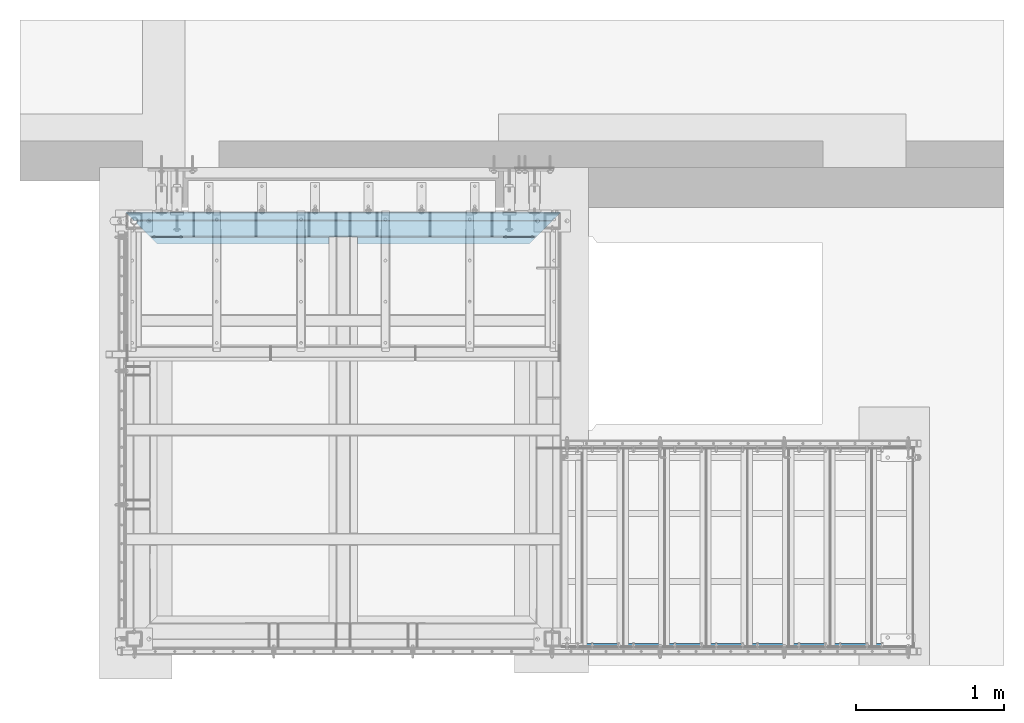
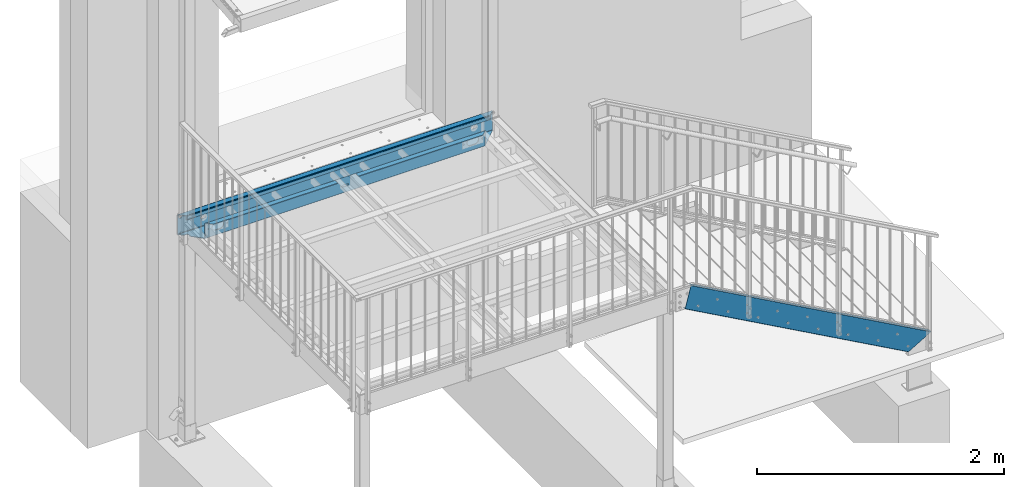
# One storey, part 12 of 116: 1 beam, 1 member, 38 openings.
"""IFC2X3 building model written with IfcOpenShell, lengths in millimetres."""

from ifc_helpers import new_model, entity, si_unit, converted_unit, point, frame, frame_2d, origin, origin_with_axes, origin_2d_with_axis, place, context, project, spatial, polyline, circle_curve, line_curve, trimmed, segment, composite_curve, circle, outline, extrude, clip, halfspace, material, element, save


model = new_model("IFC2X3")

# Units and contexts
model_context = context("Model", 3, precision=1e-09, world=origin_with_axes())
ifc_project = project(units=[si_unit("LENGTHUNIT", "METRE", prefix="MILLI"), si_unit("AREAUNIT", "SQUARE_METRE"), si_unit("VOLUMEUNIT", "CUBIC_METRE"), converted_unit("PLANEANGLEUNIT", "DEGREE", entity("IfcPlaneAngleMeasure", 0.01745329), si_unit("PLANEANGLEUNIT", "RADIAN"), dimensions=[0, 0, 0, 0, 0, 0, 0])], contexts=[model_context])

# Site, building, storey
site_placement = place(None, origin_with_axes())
site = spatial("IfcSite", under=ifc_project, at=site_placement, Name="Site", CompositionType="ELEMENT")
building_placement = place(site_placement, origin_with_axes())
building = spatial("IfcBuilding", under=site, at=building_placement, Name="Struktur 1", CompositionType="ELEMENT")
storey_placement = place(building_placement, origin_with_axes())
storey = spatial("IfcBuildingStorey", under=building, at=storey_placement, Name="Default Storey", CompositionType="ELEMENT", Elevation=0.0)

# Member, openings
ifc_material_1 = material(Name="S235JR")
member_placement = place(None, frame((60785.926054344, 9087.358883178, -1459.553447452), z_axis=(-0.874893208, 0.0, 0.484315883), x_axis=(0.0, 1.0, 0.0)))
member = element("IfcMember", 1, at=member_placement, inside=storey, material=ifc_material_1, Name="-", ObjectType="-", context=model_context, shape_type="Clipping", body=[
    clip(clip(extrude(outline(composite_curve([segment(trimmed(line_curve((15.0, 108.5), (-1.0, 0.0), 25.0), [point((15.0, 108.5))], [point((-10.0, 108.5))], True, "CARTESIAN"), True, "CONTINUOUS"), segment(trimmed(circle_curve(frame_2d((-9.999999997, 103.499999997), x_axis=(1.0, 0.0)), 5.000000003), [point((-10.0, 108.5))], [point((-15.0, 103.5))], True, "CARTESIAN"), True, "CONTINUOUS"), segment(trimmed(line_curve((-15.0, 103.5), (0.0, -1.0), 207.0), [point((-15.0, 103.5))], [point((-15.0, -103.5))], True, "CARTESIAN"), True, "CONTINUOUS"), segment(trimmed(circle_curve(frame_2d((-9.999999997, -103.499999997), x_axis=(1.0, 0.0)), 5.000000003), [point((-15.0, -103.5))], [point((-10.0, -108.5))], True, "CARTESIAN"), True, "CONTINUOUS"), segment(trimmed(line_curve((-10.0, -108.5), (1.0, 0.0), 25.0), [point((-10.0, -108.5))], [point((15.0, -108.5))], True, "CARTESIAN"), True, "CONTINUOUS"), segment(trimmed(line_curve((15.0, -108.5), (0.0, 1.0), 4.0), [point((15.0, -108.5))], [point((15.0, -104.5))], True, "CARTESIAN"), True, "CONTINUOUS"), segment(trimmed(line_curve((15.0, -104.5), (-1.0, 0.0), 25.0), [point((15.0, -104.5))], [point((-10.0, -104.5))], True, "CARTESIAN"), True, "CONTINUOUS"), segment(trimmed(circle_curve(frame_2d((-9.999999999, -103.499999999), x_axis=(-1.0, 0.0)), 1.000000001), [point((-10.0, -104.5))], [point((-11.0, -103.5))], False, "CARTESIAN"), True, "CONTINUOUS"), segment(trimmed(line_curve((-11.0, -103.5), (0.0, 1.0), 207.0), [point((-11.0, -103.5))], [point((-11.0, 103.5))], True, "CARTESIAN"), True, "CONTINUOUS"), segment(trimmed(circle_curve(frame_2d((-9.999999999, 103.499999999), x_axis=(-1.0, 0.0)), 1.000000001), [point((-11.0, 103.5))], [point((-10.0, 104.5))], False, "CARTESIAN"), True, "CONTINUOUS"), segment(trimmed(line_curve((-10.0, 104.5), (1.0, 0.0), 25.0), [point((-10.0, 104.5))], [point((15.0, 104.5))], True, "CARTESIAN"), True, "CONTINUOUS"), segment(trimmed(line_curve((15.0, 104.5), (0.0, 1.0), 4.0), [point((15.0, 104.5))], [point((15.0, 108.5))], True, "CARTESIAN"), True, "CONTINUOUS")], self_intersect=False)), origin(), (0.0, 0.0, 1.0), 3042.828293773), halfspace(frame((-9087.358883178, 14027.067776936, -833.812223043), z_axis=(0.0, -0.250106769, -0.968218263), x_axis=(1.0, 0.0, 0.0)), True)), halfspace(frame((-9087.358883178, 44335.592086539, 26449.557933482), z_axis=(0.0, -0.507781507, 0.861485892), x_axis=(-1.0, 0.0, 0.0)), True)),
])
opening_1_placement = place(member_placement, frame((-10.5, -31.430671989, 576.183800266), z_axis=(-1.0, 0.0, 0.0), x_axis=(0.0, -0.484315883, -0.874893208)))
element("IfcOpeningElement", 2, at=opening_1_placement, cuts=member, ObjectType="Opening", context=model_context, shape_type="SweptSolid", body=[
    extrude(circle(Radius=7.001, at=origin_2d_with_axis()), origin(), (0.0, 0.0, 1.0), 5.0),
])
opening_2_placement = place(member_placement, frame((-10.5, 55.746186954, 733.664577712), z_axis=(-1.0, 0.0, 0.0), x_axis=(0.0, -0.484315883, -0.874893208)))
element("IfcOpeningElement", 3, at=opening_2_placement, cuts=member, ObjectType="Opening", context=model_context, shape_type="SweptSolid", body=[
    extrude(circle(Radius=7.001, at=origin_2d_with_axis()), origin(), (0.0, 0.0, 1.0), 5.0),
])
opening_3_placement = place(member_placement, frame((-10.5, -31.430671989, 896.222860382), z_axis=(-1.0, 0.0, 0.0), x_axis=(0.0, -0.484315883, -0.874893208)))
element("IfcOpeningElement", 4, at=opening_3_placement, cuts=member, ObjectType="Opening", context=model_context, shape_type="SweptSolid", body=[
    extrude(circle(Radius=7.001, at=origin_2d_with_axis()), origin(), (0.0, 0.0, 1.0), 5.0),
])
opening_4_placement = place(member_placement, frame((-10.5, 55.746186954, 1373.742697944), z_axis=(-1.0, 0.0, 0.0), x_axis=(0.0, -0.484315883, -0.874893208)))
element("IfcOpeningElement", 5, at=opening_4_placement, cuts=member, ObjectType="Opening", context=model_context, shape_type="SweptSolid", body=[
    extrude(circle(Radius=7.001, at=origin_2d_with_axis()), origin(), (0.0, 0.0, 1.0), 5.0),
])
opening_5_placement = place(member_placement, frame((-10.5, -31.430671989, 2496.418160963), z_axis=(-1.0, 0.0, 0.0), x_axis=(0.0, -0.484315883, -0.874893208)))
element("IfcOpeningElement", 6, at=opening_5_placement, cuts=member, ObjectType="Opening", context=model_context, shape_type="SweptSolid", body=[
    extrude(circle(Radius=7.001, at=origin_2d_with_axis()), origin(), (0.0, 0.0, 1.0), 5.0),
])
opening_6_placement = place(member_placement, frame((-10.5, 55.746186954, 413.625517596), z_axis=(-1.0, 0.0, 0.0), x_axis=(0.0, -0.484315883, -0.874893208)))
element("IfcOpeningElement", 7, at=opening_6_placement, cuts=member, ObjectType="Opening", context=model_context, shape_type="SweptSolid", body=[
    extrude(circle(Radius=7.001, at=origin_2d_with_axis()), origin(), (0.0, 0.0, 1.0), 5.0),
])
opening_7_placement = place(member_placement, frame((-10.5, 55.746186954, 1053.703637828), z_axis=(-1.0, 0.0, 0.0), x_axis=(0.0, -0.484315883, -0.874893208)))
element("IfcOpeningElement", 8, at=opening_7_placement, cuts=member, ObjectType="Opening", context=model_context, shape_type="SweptSolid", body=[
    extrude(circle(Radius=7.001, at=origin_2d_with_axis()), origin(), (0.0, 0.0, 1.0), 5.0),
])
opening_8_placement = place(member_placement, frame((-10.5, 55.746186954, 2653.898938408), z_axis=(-1.0, 0.0, 0.0), x_axis=(0.0, -0.484315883, -0.874893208)))
element("IfcOpeningElement", 9, at=opening_8_placement, cuts=member, ObjectType="Opening", context=model_context, shape_type="SweptSolid", body=[
    extrude(circle(Radius=7.001, at=origin_2d_with_axis()), origin(), (0.0, 0.0, 1.0), 5.0),
])
opening_9_placement = place(member_placement, frame((-10.5, 55.746186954, 2333.859878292), z_axis=(-1.0, 0.0, 0.0), x_axis=(0.0, -0.484315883, -0.874893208)))
element("IfcOpeningElement", 10, at=opening_9_placement, cuts=member, ObjectType="Opening", context=model_context, shape_type="SweptSolid", body=[
    extrude(circle(Radius=7.001, at=origin_2d_with_axis()), origin(), (0.0, 0.0, 1.0), 5.0),
])
opening_10_placement = place(member_placement, frame((-10.5, -31.430671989, 1856.340040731), z_axis=(-1.0, 0.0, 0.0), x_axis=(0.0, -0.484315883, -0.874893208)))
element("IfcOpeningElement", 11, at=opening_10_placement, cuts=member, ObjectType="Opening", context=model_context, shape_type="SweptSolid", body=[
    extrude(circle(Radius=7.001, at=origin_2d_with_axis()), origin(), (0.0, 0.0, 1.0), 5.0),
])
opening_11_placement = place(member_placement, frame((-10.5, 55.746186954, 2013.820818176), z_axis=(-1.0, 0.0, 0.0), x_axis=(0.0, -0.484315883, -0.874893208)))
element("IfcOpeningElement", 12, at=opening_11_placement, cuts=member, ObjectType="Opening", context=model_context, shape_type="SweptSolid", body=[
    extrude(circle(Radius=7.001, at=origin_2d_with_axis()), origin(), (0.0, 0.0, 1.0), 5.0),
])
opening_12_placement = place(member_placement, frame((-10.5, -31.430671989, 1536.300980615), z_axis=(-1.0, 0.0, 0.0), x_axis=(0.0, -0.484315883, -0.874893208)))
element("IfcOpeningElement", 13, at=opening_12_placement, cuts=member, ObjectType="Opening", context=model_context, shape_type="SweptSolid", body=[
    extrude(circle(Radius=7.001, at=origin_2d_with_axis()), origin(), (0.0, 0.0, 1.0), 5.0),
])
opening_13_placement = place(member_placement, frame((-10.5, 55.746186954, 1693.78175806), z_axis=(-1.0, 0.0, 0.0), x_axis=(0.0, -0.484315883, -0.874893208)))
element("IfcOpeningElement", 14, at=opening_13_placement, cuts=member, ObjectType="Opening", context=model_context, shape_type="SweptSolid", body=[
    extrude(circle(Radius=7.001, at=origin_2d_with_axis()), origin(), (0.0, 0.0, 1.0), 5.0),
])
opening_14_placement = place(member_placement, frame((-15.5, -28.039976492, 2182.504228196), z_axis=(-1.0, 0.0, 0.0), x_axis=(0.0, -1.0, 0.0)))
element("IfcOpeningElement", 15, at=opening_14_placement, cuts=member, ObjectType="Opening", context=model_context, shape_type="SweptSolid", body=[
    extrude(circle(Radius=7.001, at=frame_2d((3.390695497, -6.125127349), x_axis=(1.0, 0.0))), origin(), (0.0, 0.0, -1.0), 5.0),
])
opening_15_placement = place(member_placement, frame((-15.5, 41.951480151, 2143.758957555), z_axis=(-1.0, 0.0, 0.0), x_axis=(0.0, -1.0, 0.0)))
element("IfcOpeningElement", 16, at=opening_15_placement, cuts=member, ObjectType="Opening", context=model_context, shape_type="SweptSolid", body=[
    extrude(circle(Radius=7.001, at=frame_2d((3.390695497, -6.125127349), x_axis=(1.0, 0.0))), origin(), (0.0, 0.0, -1.0), 5.0),
])
opening_16_placement = place(member_placement, frame((-15.5, 41.951480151, 1183.641777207), z_axis=(-1.0, 0.0, 0.0), x_axis=(0.0, -1.0, 0.0)))
element("IfcOpeningElement", 17, at=opening_16_placement, cuts=member, ObjectType="Opening", context=model_context, shape_type="SweptSolid", body=[
    extrude(circle(Radius=7.001, at=frame_2d((3.390695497, -6.125127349), x_axis=(1.0, 0.0))), origin(), (0.0, 0.0, -1.0), 5.0),
])
opening_17_placement = place(member_placement, frame((-15.5, -28.039976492, 1222.387047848), z_axis=(-1.0, 0.0, 0.0), x_axis=(0.0, -1.0, 0.0)))
element("IfcOpeningElement", 18, at=opening_17_placement, cuts=member, ObjectType="Opening", context=model_context, shape_type="SweptSolid", body=[
    extrude(circle(Radius=7.001, at=frame_2d((3.390695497, -6.125127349), x_axis=(1.0, 0.0))), origin(), (0.0, 0.0, -1.0), 5.0),
])

# Beam, openings
ifc_material_2 = material(Name="S355JR")
beam_placement = place(None, frame((54880.013133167, 11914.858883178, -105.0), z_axis=(-1.0, 0.0, 0.0), x_axis=(0.0, -1.0, 0.0)))
beam = element("IfcBeam", 19, at=beam_placement, inside=storey, material=ifc_material_2, Name="-", ObjectType="-", context=model_context, shape_type="Clipping", body=[
    clip(clip(extrude(outline(composite_curve([segment(trimmed(line_curve((-47.5, 60.0), (0.0, 1.0), 31.0), [point((-47.5, 60.0))], [point((-47.5, 91.0))], True, "CARTESIAN"), True, "CONTINUOUS"), segment(trimmed(circle_curve(frame_2d((-56.500000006, 90.999999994), x_axis=(1.0, 0.0)), 9.000000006), [point((-47.5, 91.0))], [point((-56.5, 100.0))], True, "CARTESIAN"), True, "CONTINUOUS"), segment(trimmed(line_curve((-56.5, 100.0), (-1.0, 0.0), 42.0), [point((-56.5, 100.0))], [point((-98.5, 100.0))], True, "CARTESIAN"), True, "CONTINUOUS"), segment(trimmed(circle_curve(frame_2d((-98.499999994, 90.999999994), x_axis=(1.0, 0.0)), 9.000000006), [point((-98.5, 100.0))], [point((-107.5, 91.0))], True, "CARTESIAN"), True, "CONTINUOUS"), segment(trimmed(line_curve((-107.5, 91.0), (0.0, -1.0), 182.0), [point((-107.5, 91.0))], [point((-107.5, -91.0))], True, "CARTESIAN"), True, "CONTINUOUS"), segment(trimmed(circle_curve(frame_2d((-98.499999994, -90.999999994), x_axis=(1.0, 0.0)), 9.000000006), [point((-107.5, -91.0))], [point((-98.5, -100.0))], True, "CARTESIAN"), True, "CONTINUOUS"), segment(trimmed(line_curve((-98.5, -100.0), (1.0, 0.0), 152.0), [point((-98.5, -100.0))], [point((53.5, -100.0))], True, "CARTESIAN"), True, "CONTINUOUS"), segment(trimmed(circle_curve(frame_2d((53.499999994, -90.999999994), x_axis=(1.0, 0.0)), 9.000000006), [point((53.5, -100.0))], [point((62.5, -91.0))], True, "CARTESIAN"), True, "CONTINUOUS"), segment(trimmed(line_curve((62.5, -91.0), (0.0, 1.0), 139.0), [point((62.5, -91.0))], [point((62.5, 48.0))], True, "CARTESIAN"), True, "CONTINUOUS"), segment(trimmed(circle_curve(frame_2d((66.500000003, 47.999999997), x_axis=(-1.0, 0.0)), 4.000000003), [point((62.5, 48.0))], [point((66.5, 52.0))], False, "CARTESIAN"), True, "CONTINUOUS"), segment(trimmed(line_curve((66.5, 52.0), (1.0, 0.0), 41.0), [point((66.5, 52.0))], [point((107.5, 52.0))], True, "CARTESIAN"), True, "CONTINUOUS"), segment(trimmed(line_curve((107.5, 52.0), (0.0, 1.0), 5.0), [point((107.5, 52.0))], [point((107.5, 57.0))], True, "CARTESIAN"), True, "CONTINUOUS"), segment(trimmed(line_curve((107.5, 57.0), (-1.0, 0.0), 41.0), [point((107.5, 57.0))], [point((66.5, 57.0))], True, "CARTESIAN"), True, "CONTINUOUS"), segment(trimmed(circle_curve(frame_2d((66.500000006, 47.999999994), x_axis=(1.0, 0.0)), 9.000000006), [point((66.5, 57.0))], [point((57.5, 48.0))], True, "CARTESIAN"), True, "CONTINUOUS"), segment(trimmed(line_curve((57.5, 48.0), (0.0, -1.0), 139.0), [point((57.5, 48.0))], [point((57.5, -91.0))], True, "CARTESIAN"), True, "CONTINUOUS"), segment(trimmed(circle_curve(frame_2d((53.499999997, -90.999999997), x_axis=(-1.0, 0.0)), 4.000000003), [point((57.5, -91.0))], [point((53.5, -95.0))], False, "CARTESIAN"), True, "CONTINUOUS"), segment(trimmed(line_curve((53.5, -95.0), (-1.0, 0.0), 152.0), [point((53.5, -95.0))], [point((-98.5, -95.0))], True, "CARTESIAN"), True, "CONTINUOUS"), segment(trimmed(circle_curve(frame_2d((-98.499999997, -90.999999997), x_axis=(-1.0, 0.0)), 4.000000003), [point((-98.5, -95.0))], [point((-102.5, -91.0))], False, "CARTESIAN"), True, "CONTINUOUS"), segment(trimmed(line_curve((-102.5, -91.0), (0.0, 1.0), 182.0), [point((-102.5, -91.0))], [point((-102.5, 91.0))], True, "CARTESIAN"), True, "CONTINUOUS"), segment(trimmed(circle_curve(frame_2d((-98.499999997, 90.999999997), x_axis=(-1.0, 0.0)), 4.000000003), [point((-102.5, 91.0))], [point((-98.5, 95.0))], False, "CARTESIAN"), True, "CONTINUOUS"), segment(trimmed(line_curve((-98.5, 95.0), (1.0, 0.0), 42.0), [point((-98.5, 95.0))], [point((-56.5, 95.0))], True, "CARTESIAN"), True, "CONTINUOUS"), segment(trimmed(circle_curve(frame_2d((-56.500000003, 90.999999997), x_axis=(-1.0, 0.0)), 4.000000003), [point((-56.5, 95.0))], [point((-52.5, 91.0))], False, "CARTESIAN"), True, "CONTINUOUS"), segment(trimmed(line_curve((-52.5, 91.0), (0.0, -1.0), 31.0), [point((-52.5, 91.0))], [point((-52.5, 60.0))], True, "CARTESIAN"), True, "CONTINUOUS"), segment(trimmed(line_curve((-52.5, 60.0), (1.0, 0.0), 5.0), [point((-52.5, 60.0))], [point((-47.5, 60.0))], True, "CARTESIAN"), True, "CONTINUOUS")], self_intersect=False)), origin(), (0.0, 0.0, -1.0), 3744.072002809), halfspace(frame((-21734.845832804, 105.0, 21230.308417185), z_axis=(-0.707106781, 0.0, -0.707106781), x_axis=(-0.707106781, 0.0, 0.707106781)), True)), halfspace(frame((35017.203301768, 105.0, 31777.668714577), z_axis=(-0.707106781, 0.0, 0.707106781), x_axis=(0.707106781, 0.0, 0.707106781)), True)),
])
opening_18_placement = place(beam_placement, frame((-110.858345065, -200.1, -391.745073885), z_axis=(0.0, 1.0, 0.0), x_axis=(0.0, 0.0, -1.0)))
element("IfcOpeningElement", 20, at=opening_18_placement, cuts=beam, ObjectType="Opening", context=model_context, shape_type="SweptSolid", body=[
    extrude(outline(polyline([(-10.293341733, -8.357660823), (10.293341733, -8.357660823), (10.293341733, 8.357660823), (-10.293341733, 8.357660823), (-10.293341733, -8.357660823)])), origin(), (0.0, 0.0, 1.0), 400.2),
])
opening_19_placement = place(beam_placement, frame((-102.500684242, -200.1, -3362.620270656), z_axis=(0.0, -1.0, 0.0), x_axis=(0.0, 0.0, 1.0)))
element("IfcOpeningElement", 21, at=opening_19_placement, cuts=beam, ObjectType="Opening", context=model_context, shape_type="SweptSolid", body=[
    extrude(outline(polyline([(0.0, 0.0), (20.586683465, 0.0), (20.586683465, 16.715321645), (0.0, 16.715321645), (0.0, 0.0)])), origin(), (0.0, 0.0, -1.0), 400.2),
])
opening_20_placement = place(beam_placement, frame((-107.5, -200.1, -397.036001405), z_axis=(0.0, 1.0, 0.0), x_axis=(0.0, 0.0, -1.0)))
element("IfcOpeningElement", 22, at=opening_20_placement, cuts=beam, ObjectType="Opening", context=model_context, shape_type="SweptSolid", body=[
    extrude(outline(polyline([(1378.999, -235.001), (1571.001, -235.001), (1571.001, -170.004), (1378.999, -170.004), (1378.999, -235.001)])), origin(), (0.0, 0.0, 1.0), 400.2),
])
opening_21_placement = place(beam_placement, frame((63.0, -38.001, -1852.036001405), z_axis=(1.0, 0.0, 0.0), x_axis=(0.0, 0.0, -1.0)))
element("IfcOpeningElement", 23, at=opening_21_placement, cuts=beam, ObjectType="Opening", context=model_context, shape_type="SweptSolid", body=[
    extrude(outline(composite_curve([segment(trimmed(line_curve((0.0, 0.0), (1.0, 0.0), 40.0), [point((0.0, 0.0))], [point((40.0, 0.0))], True, "CARTESIAN"), True, "CONTINUOUS"), segment(trimmed(circle_curve(frame_2d((40.0, 10.001), x_axis=(1.0, 0.0)), 10.001), [point((40.0, 0.0))], [point((40.0, 20.002))], True, "CARTESIAN"), True, "CONTINUOUS"), segment(trimmed(line_curve((40.0, 20.002), (-1.0, 0.0), 40.0), [point((40.0, 20.002))], [point((0.0, 20.002))], True, "CARTESIAN"), True, "CONTINUOUS"), segment(trimmed(circle_curve(frame_2d((0.0, 10.001), x_axis=(1.0, 0.0)), 10.001), [point((0.0, 20.002))], [point((0.0, 0.0))], True, "CARTESIAN"), True, "CONTINUOUS")], self_intersect=False)), origin(), (0.0, 0.0, -1.0), 6.0),
])
opening_22_placement = place(beam_placement, frame((-102.0, 75.0, -408.037415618), z_axis=(1.0, 0.0, 0.0), x_axis=(0.0, 1.0, 0.0)))
element("IfcOpeningElement", 24, at=opening_22_placement, cuts=beam, ObjectType="Opening", context=model_context, shape_type="SweptSolid", body=[
    extrude(circle(Radius=19.001, at=frame_2d((0.0, -19.001), x_axis=(1.0, 0.0))), origin(), (0.0, 0.0, -1.0), 6.0),
])
opening_23_placement = place(beam_placement, frame((-102.0, 100.0, -3342.033587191), z_axis=(-1.0, 0.0, 0.0), x_axis=(0.0, 0.0, 1.0)))
element("IfcOpeningElement", 25, at=opening_23_placement, cuts=beam, ObjectType="Opening", context=model_context, shape_type="SweptSolid", body=[
    extrude(circle(Radius=19.001, at=frame_2d((25.0, -25.0), x_axis=(1.0, 0.0))), origin(), (0.0, 0.0, 1.0), 6.0),
])
opening_24_placement = place(beam_placement, frame((57.0, -100.0, -805.160432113), z_axis=(1.0, 0.0, 0.0), x_axis=(0.0, 0.0, -1.0)))
element("IfcOpeningElement", 26, at=opening_24_placement, cuts=beam, ObjectType="Opening", context=model_context, shape_type="SweptSolid", body=[
    extrude(outline(composite_curve([segment(trimmed(line_curve((-143.123016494, 54.999), (1.0, 0.0), 40.0), [point((-143.123016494, 54.999))], [point((-103.123016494, 54.999))], True, "CARTESIAN"), True, "CONTINUOUS"), segment(trimmed(circle_curve(frame_2d((-103.123016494, 90.0), x_axis=(1.0, 0.0)), 35.001), [point((-103.123016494, 54.999))], [point((-103.123016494, 125.001))], True, "CARTESIAN"), True, "CONTINUOUS"), segment(trimmed(line_curve((-103.123016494, 125.001), (-1.0, 0.0), 40.0), [point((-103.123016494, 125.001))], [point((-143.123016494, 125.001))], True, "CARTESIAN"), True, "CONTINUOUS"), segment(trimmed(circle_curve(frame_2d((-143.123016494, 90.0), x_axis=(1.0, 0.0)), 35.001), [point((-143.123016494, 125.001))], [point((-143.123016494, 54.999))], True, "CARTESIAN"), True, "CONTINUOUS")], self_intersect=False)), origin(), (0.0, 0.0, 1.0), 6.0),
])
opening_25_placement = place(beam_placement, frame((57.0, -10.0, -687.037415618), z_axis=(1.0, 0.0, 0.0), x_axis=(0.0, 0.0, -1.0)))
element("IfcOpeningElement", 27, at=opening_25_placement, cuts=beam, ObjectType="Opening", context=model_context, shape_type="SweptSolid", body=[
    extrude(circle(Radius=2.751, at=frame_2d((85.0, 0.0), x_axis=(1.0, 0.0))), origin(), (0.0, 0.0, 1.0), 6.0),
])
opening_26_placement = place(beam_placement, frame((57.0, -10.0, -687.037415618), z_axis=(1.0, 0.0, 0.0), x_axis=(0.0, 0.0, -1.0)))
element("IfcOpeningElement", 28, at=opening_26_placement, cuts=beam, ObjectType="Opening", context=model_context, shape_type="SweptSolid", body=[
    extrude(circle(Radius=2.751, at=frame_2d((-95.0, 0.0), x_axis=(1.0, 0.0))), origin(), (0.0, 0.0, 1.0), 6.0),
])
opening_27_placement = place(beam_placement, frame((57.0, -10.0, -2974.785587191), z_axis=(-1.0, 0.0, 0.0), x_axis=(0.0, -1.0, 0.0)))
element("IfcOpeningElement", 29, at=opening_27_placement, cuts=beam, ObjectType="Opening", context=model_context, shape_type="SweptSolid", body=[
    extrude(circle(Radius=2.751, at=frame_2d((0.0, 2.751), x_axis=(1.0, 0.0))), origin(), (0.0, 0.0, -1.0), 6.0),
])
opening_28_placement = place(beam_placement, frame((57.0, -10.0, -3154.785587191), z_axis=(-1.0, 0.0, 0.0), x_axis=(0.0, -1.0, 0.0)))
element("IfcOpeningElement", 30, at=opening_28_placement, cuts=beam, ObjectType="Opening", context=model_context, shape_type="SweptSolid", body=[
    extrude(circle(Radius=2.751, at=frame_2d((0.0, 2.751), x_axis=(1.0, 0.0))), origin(), (0.0, 0.0, -1.0), 6.0),
])
opening_29_placement = place(beam_placement, frame((57.0, -45.001, -3082.034587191), z_axis=(-1.0, 0.0, 0.0), x_axis=(0.0, 0.0, 1.0)))
element("IfcOpeningElement", 31, at=opening_29_placement, cuts=beam, ObjectType="Opening", context=model_context, shape_type="SweptSolid", body=[
    extrude(outline(composite_curve([segment(trimmed(line_curve((0.0, 0.0), (1.0, 0.0), 40.0), [point((0.0, 0.0))], [point((40.0, 0.0))], True, "CARTESIAN"), True, "CONTINUOUS"), segment(trimmed(circle_curve(frame_2d((40.0, 35.001), x_axis=(1.0, 0.0)), 35.001), [point((40.0, 0.0))], [point((40.0, 70.002))], True, "CARTESIAN"), True, "CONTINUOUS"), segment(trimmed(line_curve((40.0, 70.002), (-1.0, 0.0), 40.0), [point((40.0, 70.002))], [point((0.0, 70.002))], True, "CARTESIAN"), True, "CONTINUOUS"), segment(trimmed(circle_curve(frame_2d((0.0, 35.001), x_axis=(1.0, 0.0)), 35.001), [point((0.0, 70.002))], [point((0.0, 0.0))], True, "CARTESIAN"), True, "CONTINUOUS")], self_intersect=False)), origin(), (0.0, 0.0, -1.0), 6.0),
])
opening_30_placement = place(beam_placement, frame((-207.6, 30.0, -962.037501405), z_axis=(1.0, 0.0, 0.0), x_axis=(0.0, 0.0, -1.0)))
element("IfcOpeningElement", 32, at=opening_30_placement, cuts=beam, ObjectType="Opening", context=model_context, shape_type="SweptSolid", body=[
    extrude(outline(polyline([(-7.001, -7.001), (7.001, -7.001), (7.001, 7.001), (-7.001, 7.001), (-7.001, -7.001)])), origin(), (0.0, 0.0, 1.0), 120.1),
])
opening_31_placement = place(beam_placement, frame((-207.6, 30.0, -1322.037501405), z_axis=(1.0, 0.0, 0.0), x_axis=(0.0, 0.0, -1.0)))
element("IfcOpeningElement", 33, at=opening_31_placement, cuts=beam, ObjectType="Opening", context=model_context, shape_type="SweptSolid", body=[
    extrude(outline(polyline([(-7.001, -7.001), (7.001, -7.001), (7.001, 7.001), (-7.001, 7.001), (-7.001, -7.001)])), origin(), (0.0, 0.0, 1.0), 120.1),
])
opening_32_placement = place(beam_placement, frame((-207.6, 30.0, -1682.037501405), z_axis=(1.0, 0.0, 0.0), x_axis=(0.0, 0.0, -1.0)))
element("IfcOpeningElement", 34, at=opening_32_placement, cuts=beam, ObjectType="Opening", context=model_context, shape_type="SweptSolid", body=[
    extrude(outline(polyline([(-7.001, -7.001), (7.001, -7.001), (7.001, 7.001), (-7.001, 7.001), (-7.001, -7.001)])), origin(), (0.0, 0.0, 1.0), 120.1),
])
opening_33_placement = place(beam_placement, frame((-207.6, 30.0, -2042.037501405), z_axis=(1.0, 0.0, 0.0), x_axis=(0.0, 0.0, -1.0)))
element("IfcOpeningElement", 35, at=opening_33_placement, cuts=beam, ObjectType="Opening", context=model_context, shape_type="SweptSolid", body=[
    extrude(outline(polyline([(-7.001, -7.001), (7.001, -7.001), (7.001, 7.001), (-7.001, 7.001), (-7.001, -7.001)])), origin(), (0.0, 0.0, 1.0), 120.1),
])
opening_34_placement = place(beam_placement, frame((-207.6, 30.0, -2402.037501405), z_axis=(1.0, 0.0, 0.0), x_axis=(0.0, 0.0, -1.0)))
element("IfcOpeningElement", 36, at=opening_34_placement, cuts=beam, ObjectType="Opening", context=model_context, shape_type="SweptSolid", body=[
    extrude(outline(polyline([(-7.001, -7.001), (7.001, -7.001), (7.001, 7.001), (-7.001, 7.001), (-7.001, -7.001)])), origin(), (0.0, 0.0, 1.0), 120.1),
])
opening_35_placement = place(beam_placement, frame((-207.6, 30.0, -2762.037501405), z_axis=(1.0, 0.0, 0.0), x_axis=(0.0, 0.0, -1.0)))
element("IfcOpeningElement", 37, at=opening_35_placement, cuts=beam, ObjectType="Opening", context=model_context, shape_type="SweptSolid", body=[
    extrude(outline(polyline([(-7.001, -7.001), (7.001, -7.001), (7.001, 7.001), (-7.001, 7.001), (-7.001, -7.001)])), origin(), (0.0, 0.0, 1.0), 120.1),
])
opening_36_placement = place(beam_placement, frame((-107.5, -200.1, -397.036001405), z_axis=(0.0, 1.0, 0.0), x_axis=(0.0, 0.0, -1.0)))
element("IfcOpeningElement", 38, at=opening_36_placement, cuts=beam, ObjectType="Opening", context=model_context, shape_type="SweptSolid", body=[
    extrude(outline(circle_curve(frame_2d((60.0, -60.0), x_axis=(1.0, 0.0)), 20.001)), origin(), (0.0, 0.0, 1.0), 200.1),
])
opening_37_placement = place(beam_placement, frame((-108.0, -10.0, -3167.036001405), z_axis=(1.0, 0.0, 0.0), x_axis=(0.0, 0.0, -1.0)))
element("IfcOpeningElement", 39, at=opening_37_placement, cuts=beam, ObjectType="Opening", context=model_context, shape_type="SweptSolid", body=[
    extrude(outline(composite_curve([segment(trimmed(line_curve((-12.5, -12.501), (1.0, 0.0), 25.0), [point((-12.5, -12.501))], [point((12.5, -12.501))], True, "CARTESIAN"), True, "CONTINUOUS"), segment(trimmed(circle_curve(frame_2d((12.5, 0.0), x_axis=(1.0, 0.0)), 12.501), [point((12.5, -12.501))], [point((12.5, 12.501))], True, "CARTESIAN"), True, "CONTINUOUS"), segment(trimmed(line_curve((12.5, 12.501), (-1.0, 0.0), 25.0), [point((12.5, 12.501))], [point((-12.5, 12.501))], True, "CARTESIAN"), True, "CONTINUOUS"), segment(trimmed(circle_curve(frame_2d((-12.5, 0.0), x_axis=(1.0, 0.0)), 12.501), [point((-12.5, 12.501))], [point((-12.5, -12.501))], True, "CARTESIAN"), True, "CONTINUOUS")], self_intersect=False)), origin(), (0.0, 0.0, 1.0), 6.0),
])
opening_38_placement = place(beam_placement, frame((-108.0, -22.501, -654.536001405), z_axis=(-1.0, 0.0, 0.0), x_axis=(0.0, 0.0, 1.0)))
element("IfcOpeningElement", 40, at=opening_38_placement, cuts=beam, ObjectType="Opening", context=model_context, shape_type="SweptSolid", body=[
    extrude(outline(composite_curve([segment(trimmed(line_curve((0.0, 0.0), (1.0, 0.0), 25.0), [point((0.0, 0.0))], [point((25.0, 0.0))], True, "CARTESIAN"), True, "CONTINUOUS"), segment(trimmed(circle_curve(frame_2d((25.0, 12.501), x_axis=(1.0, 0.0)), 12.501), [point((25.0, 0.0))], [point((25.0, 25.002))], True, "CARTESIAN"), True, "CONTINUOUS"), segment(trimmed(line_curve((25.0, 25.002), (-1.0, 0.0), 25.0), [point((25.0, 25.002))], [point((0.0, 25.002))], True, "CARTESIAN"), True, "CONTINUOUS"), segment(trimmed(circle_curve(frame_2d((0.0, 12.501), x_axis=(1.0, 0.0)), 12.501), [point((0.0, 25.002))], [point((0.0, 0.0))], True, "CARTESIAN"), True, "CONTINUOUS")], self_intersect=False)), origin(), (0.0, 0.0, -1.0), 6.0),
])

save(model, "model.ifc")
